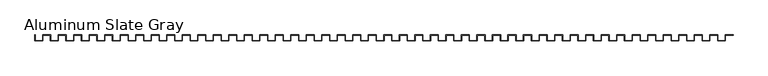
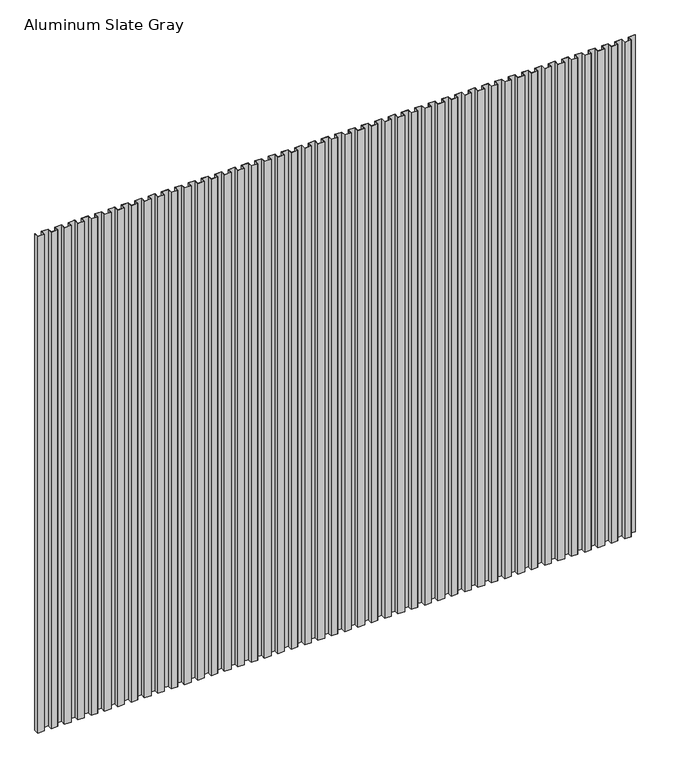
"""IFC4 building model written with IfcOpenShell, lengths in millimetres: proxy geometry, TitanTek LBR 3 VariPanel™ System : Aluminum Slate Gray."""

from ifc_helpers import new_model, si_unit, origin, origin_with_axes, place, context, project, spatial, polyline, outline, extrude, source, transform, mapped, element, save


def aluminum_slate_gray_25c6ed16(model_context):
    return source(origin(), model_context, "Body", "SweptSolid", [
        extrude(outline(polyline([(4521.2, -0.9921875), (4521.2, -38.1), (4470.4, -38.1), (4470.4, -0.9921875), (4419.6, -0.9921875), (4419.6, -38.1), (4368.8, -38.1), (4368.8, -0.9921875), (4318.0, -0.9921875), (4318.0, -38.1), (4267.2, -38.1), (4267.2, 0.0), (4268.1921875, 0.0), (4268.1921875, -37.1078125), (4317.0078125, -37.1078125), (4317.0078125, 0.0), (4369.7921875, 0.0), (4369.7921875, -37.1078125), (4418.6078125, -37.1078125), (4418.6078125, 0.0), (4471.3921875, 0.0), (4471.3921875, -37.1078125), (4520.2078125, -37.1078125), (4520.2078125, 0.0), (4572.0, 0.0), (4572.0, -0.9921875), (4521.2, -0.9921875)])), origin_with_axes(), (0.0, 0.0, 1.0), 4000.0),
        extrude(outline(polyline([(4216.4, -0.9921875), (4216.4, -38.1), (4165.6, -38.1), (4165.6, -0.9921875), (4114.8, -0.9921875), (4114.8, -38.1), (4064.0, -38.1), (4064.0, -0.9921875), (4013.2, -0.9921875), (4013.2, -38.1), (3962.4, -38.1), (3962.4, 0.0), (3963.3921875, 0.0), (3963.3921875, -37.1078125), (4012.2078125, -37.1078125), (4012.2078125, 0.0), (4064.9921875, 0.0), (4064.9921875, -37.1078125), (4113.8078125, -37.1078125), (4113.8078125, 0.0), (4166.5921875, 0.0), (4166.5921875, -37.1078125), (4215.4078125, -37.1078125), (4215.4078125, 0.0), (4267.2, 0.0), (4267.2, -0.9921875), (4216.4, -0.9921875)])), origin_with_axes(), (0.0, 0.0, 1.0), 4000.0),
        extrude(outline(polyline([(3911.6, -0.9921875), (3911.6, -38.1), (3860.8, -38.1), (3860.8, -0.9921875), (3810.0, -0.9921875), (3810.0, -38.1), (3759.2, -38.1), (3759.2, -0.9921875), (3708.4, -0.9921875), (3708.4, -38.1), (3657.6, -38.1), (3657.6, 0.0), (3658.5921875, 0.0), (3658.5921875, -37.1078125), (3707.4078125, -37.1078125), (3707.4078125, 0.0), (3760.1921875, 0.0), (3760.1921875, -37.1078125), (3809.0078125, -37.1078125), (3809.0078125, 0.0), (3861.7921875, 0.0), (3861.7921875, -37.1078125), (3910.6078125, -37.1078125), (3910.6078125, 0.0), (3962.4, 0.0), (3962.4, -0.9921875), (3911.6, -0.9921875)])), origin_with_axes(), (0.0, 0.0, 1.0), 4000.0),
        extrude(outline(polyline([(3606.8, -0.9921875), (3606.8, -38.1), (3556.0, -38.1), (3556.0, -0.9921875), (3505.2, -0.9921875), (3505.2, -38.1), (3454.4, -38.1), (3454.4, -0.9921875), (3403.6, -0.9921875), (3403.6, -38.1), (3352.8, -38.1), (3352.8, 0.0), (3353.7921875, 0.0), (3353.7921875, -37.1078125), (3402.6078125, -37.1078125), (3402.6078125, 0.0), (3455.3921875, 0.0), (3455.3921875, -37.1078125), (3504.2078125, -37.1078125), (3504.2078125, 0.0), (3556.9921875, 0.0), (3556.9921875, -37.1078125), (3605.8078125, -37.1078125), (3605.8078125, 0.0), (3657.6, 0.0), (3657.6, -0.9921875), (3606.8, -0.9921875)])), origin_with_axes(), (0.0, 0.0, 1.0), 4000.0),
        extrude(outline(polyline([(3302.0, -0.9921875), (3302.0, -38.1), (3251.2, -38.1), (3251.2, -0.9921875), (3200.4, -0.9921875), (3200.4, -38.1), (3149.6, -38.1), (3149.6, -0.9921875), (3098.8, -0.9921875), (3098.8, -38.1), (3048.0, -38.1), (3048.0, 0.0), (3048.9921875, 0.0), (3048.9921875, -37.1078125), (3097.8078125, -37.1078125), (3097.8078125, 0.0), (3150.5921875, 0.0), (3150.5921875, -37.1078125), (3199.4078125, -37.1078125), (3199.4078125, 0.0), (3252.1921875, 0.0), (3252.1921875, -37.1078125), (3301.0078125, -37.1078125), (3301.0078125, 0.0), (3352.8, 0.0), (3352.8, -0.9921875), (3302.0, -0.9921875)])), origin_with_axes(), (0.0, 0.0, 1.0), 4000.0),
        extrude(outline(polyline([(2997.2, -0.9921875), (2997.2, -38.1), (2946.4, -38.1), (2946.4, -0.9921875), (2895.6, -0.9921875), (2895.6, -38.1), (2844.8, -38.1), (2844.8, -0.9921875), (2794.0, -0.9921875), (2794.0, -38.1), (2743.2, -38.1), (2743.2, 0.0), (2744.1921875, 0.0), (2744.1921875, -37.1078125), (2793.0078125, -37.1078125), (2793.0078125, 0.0), (2845.7921875, 0.0), (2845.7921875, -37.1078125), (2894.6078125, -37.1078125), (2894.6078125, 0.0), (2947.3921875, 0.0), (2947.3921875, -37.1078125), (2996.2078125, -37.1078125), (2996.2078125, 0.0), (3048.0, 0.0), (3048.0, -0.9921875), (2997.2, -0.9921875)])), origin_with_axes(), (0.0, 0.0, 1.0), 4000.0),
        extrude(outline(polyline([(2692.4, -0.9921875), (2692.4, -38.1), (2641.6, -38.1), (2641.6, -0.9921875), (2590.8, -0.9921875), (2590.8, -38.1), (2540.0, -38.1), (2540.0, -0.9921875), (2489.2, -0.9921875), (2489.2, -38.1), (2438.4, -38.1), (2438.4, 0.0), (2439.3921875, 0.0), (2439.3921875, -37.1078125), (2488.2078125, -37.1078125), (2488.2078125, 0.0), (2540.9921875, 0.0), (2540.9921875, -37.1078125), (2589.8078125, -37.1078125), (2589.8078125, 0.0), (2642.5921875, 0.0), (2642.5921875, -37.1078125), (2691.4078125, -37.1078125), (2691.4078125, 0.0), (2743.2, 0.0), (2743.2, -0.9921875), (2692.4, -0.9921875)])), origin_with_axes(), (0.0, 0.0, 1.0), 4000.0),
        extrude(outline(polyline([(2387.6, -0.9921875), (2387.6, -38.1), (2336.8, -38.1), (2336.8, -0.9921875), (2286.0, -0.9921875), (2286.0, -38.1), (2235.2, -38.1), (2235.2, -0.9921875), (2184.4, -0.9921875), (2184.4, -38.1), (2133.6, -38.1), (2133.6, 0.0), (2134.5921875, 0.0), (2134.5921875, -37.1078125), (2183.4078125, -37.1078125), (2183.4078125, 0.0), (2236.1921875, 0.0), (2236.1921875, -37.1078125), (2285.0078125, -37.1078125), (2285.0078125, 0.0), (2337.7921875, 0.0), (2337.7921875, -37.1078125), (2386.6078125, -37.1078125), (2386.6078125, 0.0), (2438.4, 0.0), (2438.4, -0.9921875), (2387.6, -0.9921875)])), origin_with_axes(), (0.0, 0.0, 1.0), 4000.0),
        extrude(outline(polyline([(2082.8, -0.9921875), (2082.8, -38.1), (2032.0, -38.1), (2032.0, -0.9921875), (1981.2, -0.9921875), (1981.2, -38.1), (1930.4, -38.1), (1930.4, -0.9921875), (1879.6, -0.9921875), (1879.6, -38.1), (1828.8, -38.1), (1828.8, 0.0), (1829.7921875, 0.0), (1829.7921875, -37.1078125), (1878.6078125, -37.1078125), (1878.6078125, 0.0), (1931.3921875, 0.0), (1931.3921875, -37.1078125), (1980.2078125, -37.1078125), (1980.2078125, 0.0), (2032.9921875, 0.0), (2032.9921875, -37.1078125), (2081.8078125, -37.1078125), (2081.8078125, 0.0), (2133.6, 0.0), (2133.6, -0.9921875), (2082.8, -0.9921875)])), origin_with_axes(), (0.0, 0.0, 1.0), 4000.0),
        extrude(outline(polyline([(1778.0, -0.9921875), (1778.0, -38.1), (1727.2, -38.1), (1727.2, -0.9921875), (1676.4, -0.9921875), (1676.4, -38.1), (1625.6, -38.1), (1625.6, -0.9921875), (1574.8, -0.9921875), (1574.8, -38.1), (1524.0, -38.1), (1524.0, 0.0), (1524.9921875, 0.0), (1524.9921875, -37.1078125), (1573.8078125, -37.1078125), (1573.8078125, 0.0), (1626.5921875, 0.0), (1626.5921875, -37.1078125), (1675.4078125, -37.1078125), (1675.4078125, 0.0), (1728.1921875, 0.0), (1728.1921875, -37.1078125), (1777.0078125, -37.1078125), (1777.0078125, 0.0), (1828.8, 0.0), (1828.8, -0.9921875), (1778.0, -0.9921875)])), origin_with_axes(), (0.0, 0.0, 1.0), 4000.0),
        extrude(outline(polyline([(1473.2, -0.9921875), (1473.2, -38.1), (1422.4, -38.1), (1422.4, -0.9921875), (1371.6, -0.9921875), (1371.6, -38.1), (1320.8, -38.1), (1320.8, -0.9921875), (1270.0, -0.9921875), (1270.0, -38.1), (1219.2, -38.1), (1219.2, 0.0), (1220.1921875, 0.0), (1220.1921875, -37.1078125), (1269.0078125, -37.1078125), (1269.0078125, 0.0), (1321.7921875, 0.0), (1321.7921875, -37.1078125), (1370.6078125, -37.1078125), (1370.6078125, 0.0), (1423.3921875, 0.0), (1423.3921875, -37.1078125), (1472.2078125, -37.1078125), (1472.2078125, 0.0), (1524.0, 0.0), (1524.0, -0.9921875), (1473.2, -0.9921875)])), origin_with_axes(), (0.0, 0.0, 1.0), 4000.0),
        extrude(outline(polyline([(1168.4, -0.9921875), (1168.4, -38.1), (1117.6, -38.1), (1117.6, -0.9921875), (1066.8, -0.9921875), (1066.8, -38.1), (1016.0, -38.1), (1016.0, -0.9921875), (965.2, -0.9921875), (965.2, -38.1), (914.4, -38.1), (914.4, 0.0), (915.3921875, 0.0), (915.3921875, -37.1078125), (964.2078125, -37.1078125), (964.2078125, 0.0), (1016.9921875, 0.0), (1016.9921875, -37.1078125), (1065.8078125, -37.1078125), (1065.8078125, 0.0), (1118.5921875, 0.0), (1118.5921875, -37.1078125), (1167.4078125, -37.1078125), (1167.4078125, 0.0), (1219.2, 0.0), (1219.2, -0.9921875), (1168.4, -0.9921875)])), origin_with_axes(), (0.0, 0.0, 1.0), 4000.0),
        extrude(outline(polyline([(863.6, -0.9921875), (863.6, -38.1), (812.8, -38.1), (812.8, -0.9921875), (762.0, -0.9921875), (762.0, -38.1), (711.2, -38.1), (711.2, -0.9921875), (660.4, -0.9921875), (660.4, -38.1), (609.6, -38.1), (609.6, 0.0), (610.5921875, 0.0), (610.5921875, -37.1078125), (659.4078125, -37.1078125), (659.4078125, 0.0), (712.1921875, 0.0), (712.1921875, -37.1078125), (761.0078125, -37.1078125), (761.0078125, 0.0), (813.7921875, 0.0), (813.7921875, -37.1078125), (862.6078125, -37.1078125), (862.6078125, 0.0), (914.4, 0.0), (914.4, -0.9921875), (863.6, -0.9921875)])), origin_with_axes(), (0.0, 0.0, 1.0), 4000.0),
        extrude(outline(polyline([(558.8, -0.9921875), (558.8, -38.1), (508.0, -38.1), (508.0, -0.9921875), (457.2, -0.9921875), (457.2, -38.1), (406.4, -38.1), (406.4, -0.9921875), (355.6, -0.9921875), (355.6, -38.1), (304.8, -38.1), (304.8, 0.0), (305.7921875, 0.0), (305.7921875, -37.1078125), (354.6078125, -37.1078125), (354.6078125, 0.0), (407.3921875, 0.0), (407.3921875, -37.1078125), (456.2078125, -37.1078125), (456.2078125, 0.0), (508.9921875, 0.0), (508.9921875, -37.1078125), (557.8078125, -37.1078125), (557.8078125, 0.0), (609.6, 0.0), (609.6, -0.9921875), (558.8, -0.9921875)])), origin_with_axes(), (0.0, 0.0, 1.0), 4000.0),
        extrude(outline(polyline([(254.0, -0.9921875), (254.0, -38.1), (203.2, -38.1), (203.2, -0.9921875), (152.4, -0.9921875), (152.4, -38.1), (101.6, -38.1), (101.6, -0.9921875), (50.8, -0.9921875), (50.8, -38.1), (0.0, -38.1), (0.0, 0.0), (0.9921875, 0.0), (0.9921875, -37.1078125), (49.8078125, -37.1078125), (49.8078125, 0.0), (102.5921875, 0.0), (102.5921875, -37.1078125), (151.4078125, -37.1078125), (151.4078125, 0.0), (204.1921875, 0.0), (204.1921875, -37.1078125), (253.0078125, -37.1078125), (253.0078125, 0.0), (304.8, 0.0), (304.8, -0.9921875), (254.0, -0.9921875)])), origin_with_axes(), (0.0, 0.0, 1.0), 4000.0),
    ])


if __name__ == "__main__":
    model = new_model("IFC4")
    model_context = context("Model", 3, world=origin())
    ifc_project = project(units=[si_unit("LENGTHUNIT", "METRE", prefix="MILLI")], contexts=[model_context])
    site = spatial("IfcSite", under=ifc_project)
    building = spatial("IfcBuilding", under=site)
    placement = place(None, origin())
    aluminum_slate_gray_shape = aluminum_slate_gray_25c6ed16(model_context)
    element("IfcBuildingElementProxy", 1, Name="TitanTek LBR 3 VariPanel™ System : Aluminum Slate Gray", ObjectType="TitanTek LBR 3 VariPanel™ System : Aluminum Slate Gray", at=placement, inside=building, context=model_context, shape_type="MappedRepresentation", body=[
        mapped(aluminum_slate_gray_shape, transform((0.0, 0.0, 0.0), x_axis=(1.0, 0.0, 0.0), y_axis=(0.0, 1.0, 0.0), z_axis=(0.0, 0.0, 1.0))),
    ])
    save(model, "model.ifc")
